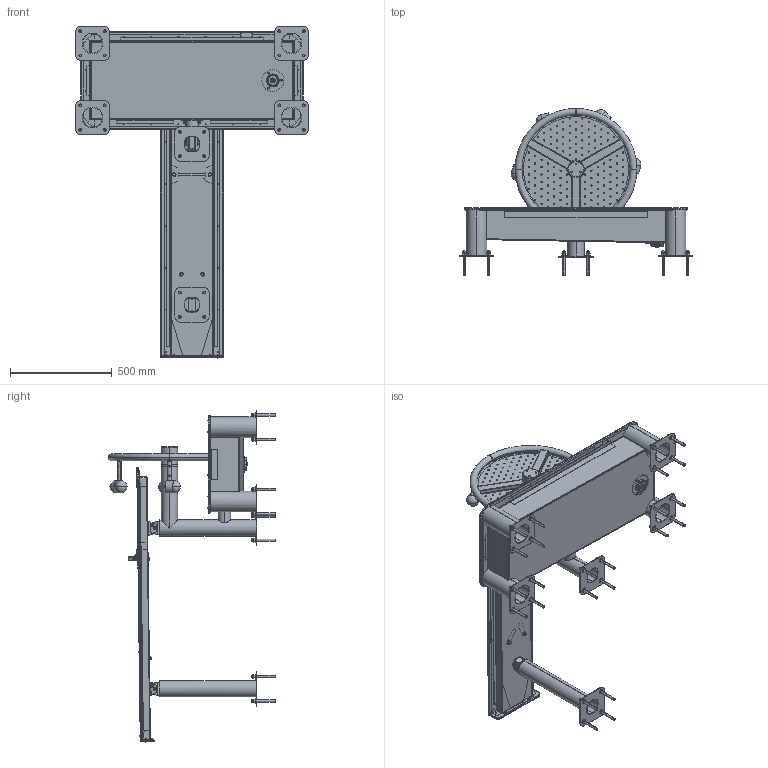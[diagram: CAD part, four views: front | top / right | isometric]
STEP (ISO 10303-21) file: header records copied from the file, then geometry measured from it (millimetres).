
FILE_DESCRIPTION (( 'STEP AP214' ), '1' );
FILE_NAME ('570.205.010.011 - Water wheel FA.STEP', '2021-03-25T08:19:32', ( '' ), ( '' ), 'SwSTEP 2.0', 'SolidWorks 2018', '' );
FILE_SCHEMA (( 'AUTOMOTIVE_DESIGN' ));
Length unit declared in the file: millimetre
Products named in the file (1): 570.205.010.011 - Water wheel FA
Bounding box: 1148 x 820.35 x 1631.5 mm (x, y, z)
Surface area: 6109232.5 mm2 (no closed solid volume)
Topology: 0 solids, 406 shells, 2201 faces, 7828 edges, 5679 vertices
Faces by surface type: cylinder 968, plane 622, torus 218, cone 162, sphere 124, bspline 107
Entity records: 115891 total; most frequent: CARTESIAN_POINT 25558, DIRECTION 14884, ORIENTED_EDGE 11270, EDGE_CURVE 7695, AXIS2_PLACEMENT_3D 6021, VERTEX_POINT 5640, CIRCLE 3926, VECTOR 2842
